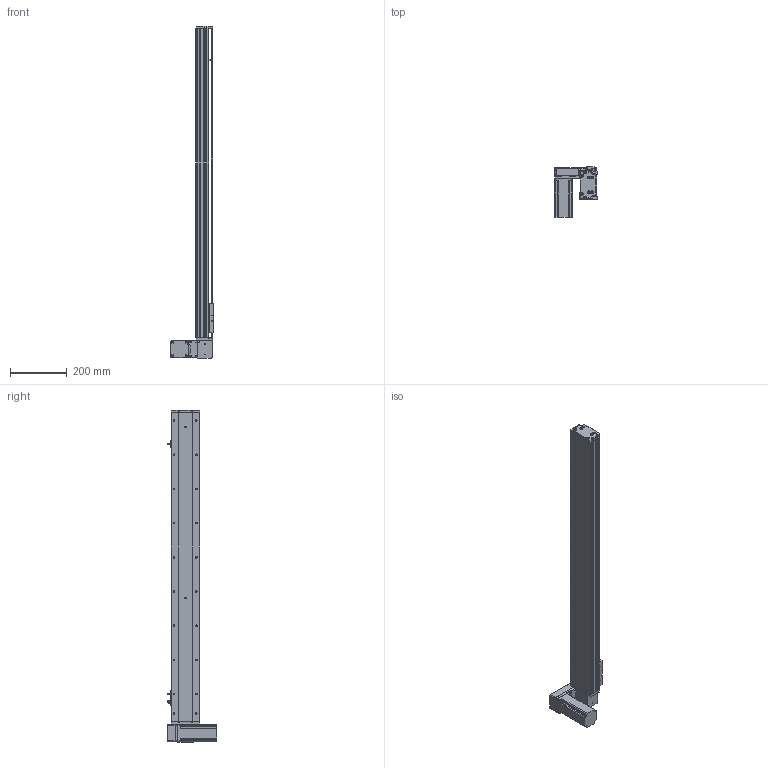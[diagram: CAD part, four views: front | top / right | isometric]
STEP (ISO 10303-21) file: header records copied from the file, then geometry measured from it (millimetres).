
FILE_DESCRIPTION (( 'STEP AP214' ), '1' );
FILE_NAME ('KSD100B-S900-MLD-CM.STEP', '2019-08-31T06:58:15', ( '微软用户' ), ( '微软中国' ), 'SwSTEP 2.0', 'SolidWorks 2014', '' );
FILE_SCHEMA (( 'AUTOMOTIVE_DESIGN' ));
Length unit declared in the file: millimetre
Products named in the file (12): KSD100B-S900-MLD-CM; 悵誘欶奻狟殏; 100宽马达安装板连板上下折丝杆同步带; 台达ECMA－C20604AS伺服电机; U倰嫖萇EEㄜSX672; 覜茼え100遵圉猾敕; 100宽防尘板900行程-同步带; 100宽马达安装板同步带左; 100宽同步带安装板半封闭; 100宽马达安装板同步带; 100遵傷啣肮祭湍; 100宽底板半封闭同步带900行程
Assembly tree (13 placements, depth 2):
  KSD100B-S900-MLD-CM
    100宽底板半封闭同步带900行程
    100遵傷啣肮祭湍
    100宽马达安装板同步带
    100宽同步带安装板半封闭
    100宽马达安装板同步带左
    100宽防尘板900行程-同步带
    覜茼え100遵圉猾敕
    U倰嫖萇EEㄜSX672  x3
    台达ECMA－C20604AS伺服电机
    100宽马达安装板连板上下折丝杆同步带
    悵誘欶奻狟殏
Bounding box: 148 x 174.7 x 1165 mm (x, y, z)
Volume: 2709230.2 mm3; surface area: 894044.9 mm2
Topology: 14 solids, 14 shells, 1453 faces, 4092 edges, 2607 vertices
Faces by surface type: cylinder 731, plane 591, cone 131
Entity records: 51697 total; most frequent: CARTESIAN_POINT 10252, DIRECTION 7088, ORIENTED_EDGE 6828, EDGE_CURVE 3414, AXIS2_PLACEMENT_3D 2589, VERTEX_POINT 2231, LINE 1910, VECTOR 1910
